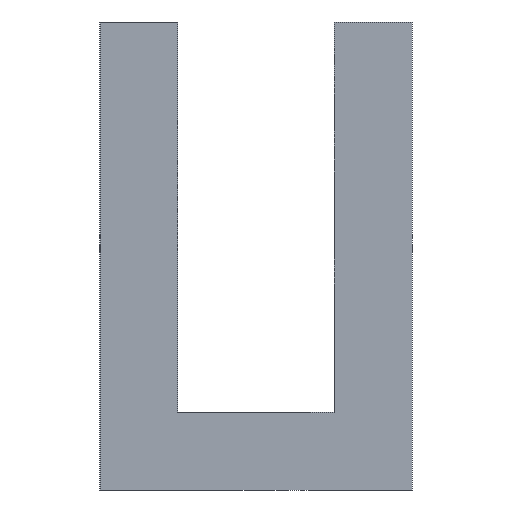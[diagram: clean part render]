
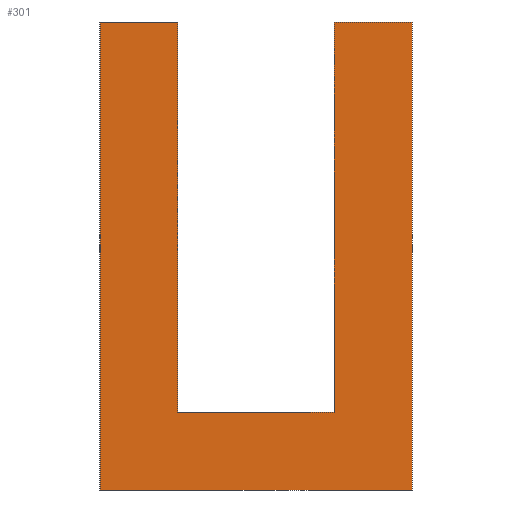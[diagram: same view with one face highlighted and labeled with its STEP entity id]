
A CAD part, left-side view. The second image highlights one B-rep face of the part: STEP entity #301.
In plain terms, the highlighted planar face has unit normal (-1, 0, 0).
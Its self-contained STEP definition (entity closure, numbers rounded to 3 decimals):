
#8 = ORIENTED_EDGE ( 'NONE', *, *, #389, .T. ) ;
#9 = DIRECTION ( 'NONE',  ( 0., 0., 1. ) ) ;
#15 = DIRECTION ( 'NONE',  ( 0., 1., 0. ) ) ;
#16 = DIRECTION ( 'NONE',  ( 0., 0., -1. ) ) ;
#22 = CARTESIAN_POINT ( 'NONE',  ( 0., 15., 5. ) ) ;
#26 = EDGE_CURVE ( 'NONE', #258, #286, #393, .T. ) ;
#33 = EDGE_CURVE ( 'NONE', #374, #275, #366, .T. ) ;
#36 = ORIENTED_EDGE ( 'NONE', *, *, #33, .T. ) ;
#46 = FACE_OUTER_BOUND ( 'NONE', #126, .T. ) ;
#47 = LINE ( 'NONE', #379, #338 ) ;
#48 = DIRECTION ( 'NONE',  ( 1., 0., 0. ) ) ;
#97 = DIRECTION ( 'NONE',  ( 0., 0., -1. ) ) ;
#98 = VERTEX_POINT ( 'NONE', #360 ) ;
#99 = CARTESIAN_POINT ( 'NONE',  ( 0., 20., 30. ) ) ;
#103 = DIRECTION ( 'NONE',  ( 0., -1., 0. ) ) ;
#123 = VECTOR ( 'NONE', #9, 1000. ) ;
#124 = CARTESIAN_POINT ( 'NONE',  ( 0., 0., 30. ) ) ;
#126 = EDGE_LOOP ( 'NONE', ( #199, #135, #223, #36, #316, #292, #392, #8 ) ) ;
#135 = ORIENTED_EDGE ( 'NONE', *, *, #193, .T. ) ;
#137 = CARTESIAN_POINT ( 'NONE',  ( 0., 20., 30. ) ) ;
#140 = LINE ( 'NONE', #287, #123 ) ;
#142 = DIRECTION ( 'NONE',  ( 0., -1., 0. ) ) ;
#152 = EDGE_CURVE ( 'NONE', #276, #258, #353, .T. ) ;
#153 = VECTOR ( 'NONE', #15, 1000. ) ;
#160 = CARTESIAN_POINT ( 'NONE',  ( 0., 5., 30. ) ) ;
#173 = AXIS2_PLACEMENT_3D ( 'NONE', #238, #48, #183 ) ;
#177 = VERTEX_POINT ( 'NONE', #22 ) ;
#179 = LINE ( 'NONE', #328, #225 ) ;
#182 = VECTOR ( 'NONE', #376, 1000. ) ;
#183 = DIRECTION ( 'NONE',  ( 0., 1., 0. ) ) ;
#189 = VECTOR ( 'NONE', #16, 1000. ) ;
#193 = EDGE_CURVE ( 'NONE', #177, #98, #140, .T. ) ;
#197 = CARTESIAN_POINT ( 'NONE',  ( 0., 5., 5. ) ) ;
#199 = ORIENTED_EDGE ( 'NONE', *, *, #289, .T. ) ;
#207 = LINE ( 'NONE', #290, #153 ) ;
#221 = EDGE_CURVE ( 'NONE', #374, #98, #47, .T. ) ;
#223 = ORIENTED_EDGE ( 'NONE', *, *, #221, .F. ) ;
#225 = VECTOR ( 'NONE', #142, 1000. ) ;
#238 = CARTESIAN_POINT ( 'NONE',  ( 0., 20., 30. ) ) ;
#247 = DIRECTION ( 'NONE',  ( 0., 0., -1. ) ) ;
#258 = VERTEX_POINT ( 'NONE', #268 ) ;
#268 = CARTESIAN_POINT ( 'NONE',  ( 0., 0., 30. ) ) ;
#275 = VERTEX_POINT ( 'NONE', #350 ) ;
#276 = VERTEX_POINT ( 'NONE', #321 ) ;
#286 = VERTEX_POINT ( 'NONE', #293 ) ;
#287 = CARTESIAN_POINT ( 'NONE',  ( 0., 15., 5. ) ) ;
#289 = EDGE_CURVE ( 'NONE', #365, #177, #207, .T. ) ;
#290 = CARTESIAN_POINT ( 'NONE',  ( 0., 5., 5. ) ) ;
#292 = ORIENTED_EDGE ( 'NONE', *, *, #26, .F. ) ;
#293 = CARTESIAN_POINT ( 'NONE',  ( 0., 0., 0. ) ) ;
#301 = ADVANCED_FACE ( 'NONE', ( #46 ), #377, .F. ) ;
#302 = VECTOR ( 'NONE', #97, 1000. ) ;
#313 = EDGE_CURVE ( 'NONE', #275, #286, #179, .T. ) ;
#316 = ORIENTED_EDGE ( 'NONE', *, *, #313, .T. ) ;
#321 = CARTESIAN_POINT ( 'NONE',  ( 0., 5., 30. ) ) ;
#328 = CARTESIAN_POINT ( 'NONE',  ( 0., 20., 0. ) ) ;
#333 = CARTESIAN_POINT ( 'NONE',  ( 0., 20., 30. ) ) ;
#338 = VECTOR ( 'NONE', #103, 1000. ) ;
#341 = VECTOR ( 'NONE', #247, 1000. ) ;
#350 = CARTESIAN_POINT ( 'NONE',  ( 0., 20., 0. ) ) ;
#353 = LINE ( 'NONE', #137, #182 ) ;
#360 = CARTESIAN_POINT ( 'NONE',  ( 0., 15., 30. ) ) ;
#365 = VERTEX_POINT ( 'NONE', #197 ) ;
#366 = LINE ( 'NONE', #333, #189 ) ;
#370 = LINE ( 'NONE', #160, #302 ) ;
#374 = VERTEX_POINT ( 'NONE', #99 ) ;
#376 = DIRECTION ( 'NONE',  ( 0., -1., 0. ) ) ;
#377 = PLANE ( 'NONE',  #173 ) ;
#379 = CARTESIAN_POINT ( 'NONE',  ( 0., 20., 30. ) ) ;
#389 = EDGE_CURVE ( 'NONE', #276, #365, #370, .T. ) ;
#392 = ORIENTED_EDGE ( 'NONE', *, *, #152, .F. ) ;
#393 = LINE ( 'NONE', #124, #341 ) ;
